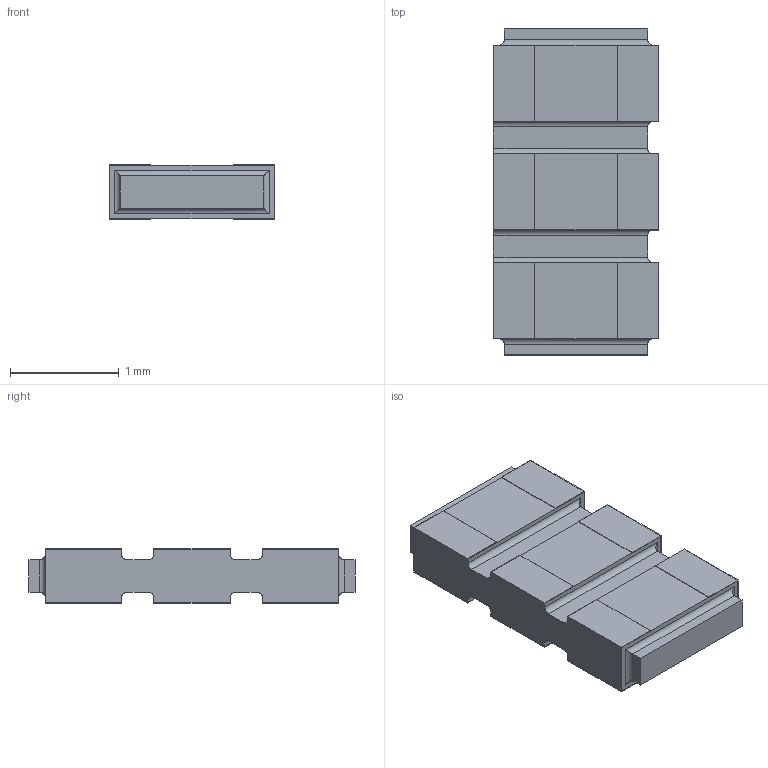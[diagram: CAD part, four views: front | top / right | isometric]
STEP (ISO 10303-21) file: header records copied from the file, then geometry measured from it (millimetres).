
FILE_DESCRIPTION(/* description */ (''),/* implementation_level */ '2;1');
FILE_NAME(/* name */ 'S:\DOCUMENT\AUTOCAD\3D_Modèles\10_3D-pour-VISHAY-COM\PRA\PRA100\PRA100-C2_à_C8\20_STEP\PRA100C3_B-or-N-or-G.stp',/* time_stamp */ '2017-12-18T09:19:39+01:00',/* author */ ('dparmentier'),/* organization */ ('unknown'),/* preprocessor_version */ 'ST-DEVELOPER v17',/* originating_system */ 'Autodesk Inventor 2018',/* authorisation */ '');
FILE_SCHEMA (('AUTOMOTIVE_DESIGN { 1 0 10303 214 3 1 1 }'));
Length unit declared in the file: millimetre
Products named in the file (1): PRA100C3_B-or-N-or-G
Bounding box: 1.52 x 3 x 0.5 mm (x, y, z)
Volume: 2 mm3; surface area: 24.8 mm2
Topology: 5 solids, 5 shells, 124 faces, 320 edges, 208 vertices
Faces by surface type: plane 96, cylinder 28
Entity records: 3765 total; most frequent: CARTESIAN_POINT 653, ORIENTED_EDGE 640, DIRECTION 610, EDGE_CURVE 320, LINE 280, VECTOR 280, VERTEX_POINT 208, AXIS2_PLACEMENT_3D 165
